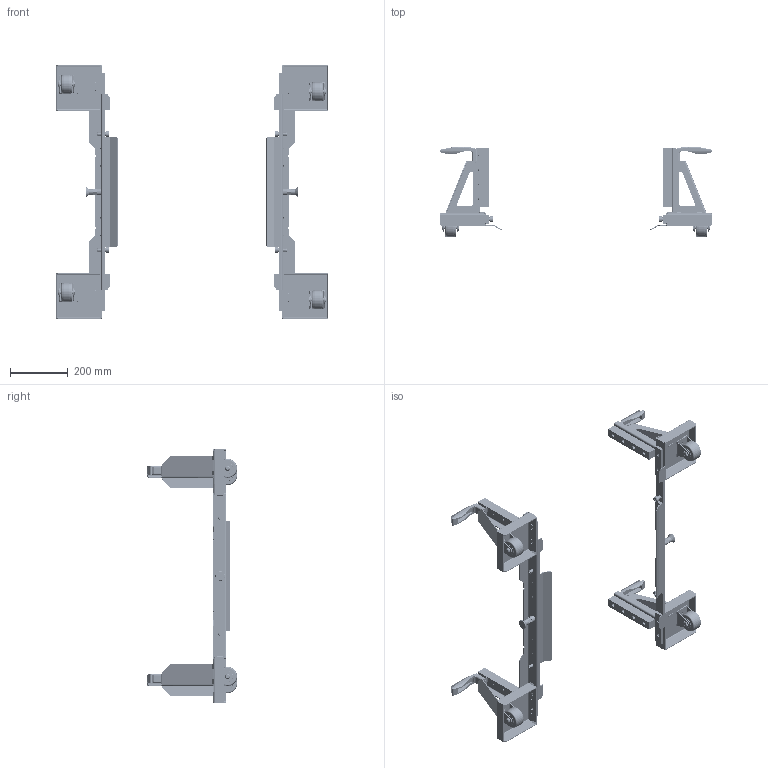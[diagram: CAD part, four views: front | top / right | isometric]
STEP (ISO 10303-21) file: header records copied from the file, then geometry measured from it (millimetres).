
FILE_DESCRIPTION((''),'2;1');
FILE_NAME('STABILIZER_KIT_240209_ASM','2024-02-23T12:15:53',('juliahuynh'),(''),'CREO PARAMETRIC BY PTC INC, 2022281','CREO PARAMETRIC BY PTC INC, 2022281','');
FILE_SCHEMA(('CONFIG_CONTROL_DESIGN'));
Length unit declared in the file: millimetre
Products named in the file (33): C29483_1_240209; C29481_1_240209; C29486_1_240209; C29319_1_240209; C29485_ASM_1_240209_ASM; 478517__1_240209; 406087_1_240209; C29485_PNT_ASM_1_240209_ASM; C29490_1_240209; 23317080300_1_240209; C29492_1_240209; W-54260-RX-20MM_1_240209; RB-5426A_CAGE_1_240209; RB-5426A_ROLLER_1_240209; RB-5426A_SLEEVE_1_240209; RB-5426A_ASM_1_240209_ASM; 400116_ASM_1_240209_ASM; A-A5426A-1-859_1_240209; H5426_1_240209; 426259_ASM_1_240209_ASM; 223300_1_240209; D0215291_1_240209; C29504_1_240209; 425888_1_240209; K0630-24308_1_240209; C29620_1_240209; K0237_12805_1_240209; C32413_1_240209; C31778_1_240209; C31779_1_240209; C29489_ASM_1_240209_ASM; C29489_240209_ASM; STABILIZER_KIT_240209_ASM
Assembly tree (69 placements, depth 6):
  STABILIZER_KIT_240209_ASM
    C29489_240209_ASM  x2
      C29489_ASM_1_240209_ASM
        C29485_PNT_ASM_1_240209_ASM
          C29485_ASM_1_240209_ASM
            C29483_1_240209
            C29481_1_240209  x2
            C29486_1_240209  x2
            C29319_1_240209  x2
          478517__1_240209
          406087_1_240209
        C29490_1_240209  x2
        23317080300_1_240209  x2
        C29492_1_240209  x2
        400116_ASM_1_240209_ASM  x2
          W-54260-RX-20MM_1_240209
          RB-5426A_ASM_1_240209_ASM
            RB-5426A_CAGE_1_240209
            RB-5426A_ROLLER_1_240209  x8
            RB-5426A_SLEEVE_1_240209
        426259_ASM_1_240209_ASM  x2
          A-A5426A-1-859_1_240209
          H5426_1_240209
        223300_1_240209  x2
        D0215291_1_240209  x8
        C29504_1_240209  x4
        425888_1_240209  x8
        K0630-24308_1_240209
        C29620_1_240209
        K0237_12805_1_240209  x2
        C32413_1_240209  x2
        C31778_1_240209
        C31779_1_240209  x2
Bounding box: 940.76 x 310.93 x 875 mm (x, y, z)
Volume: 3390325.8 mm3; surface area: 1634082.3 mm2
Topology: 140 solids, 230 shells, 5216 faces, 13610 edges, 9016 vertices
Faces by surface type: plane 2462, cylinder 1760, cone 534, bspline 308, torus 140, sphere 8, extrusion 4
Entity records: 42714 total; most frequent: CARTESIAN_POINT 14109, DIRECTION 5963, ORIENTED_EDGE 5622, EDGE_CURVE 2895, AXIS2_PLACEMENT_3D 2199, VERTEX_POINT 1927, VECTOR 1565, LINE 1564
